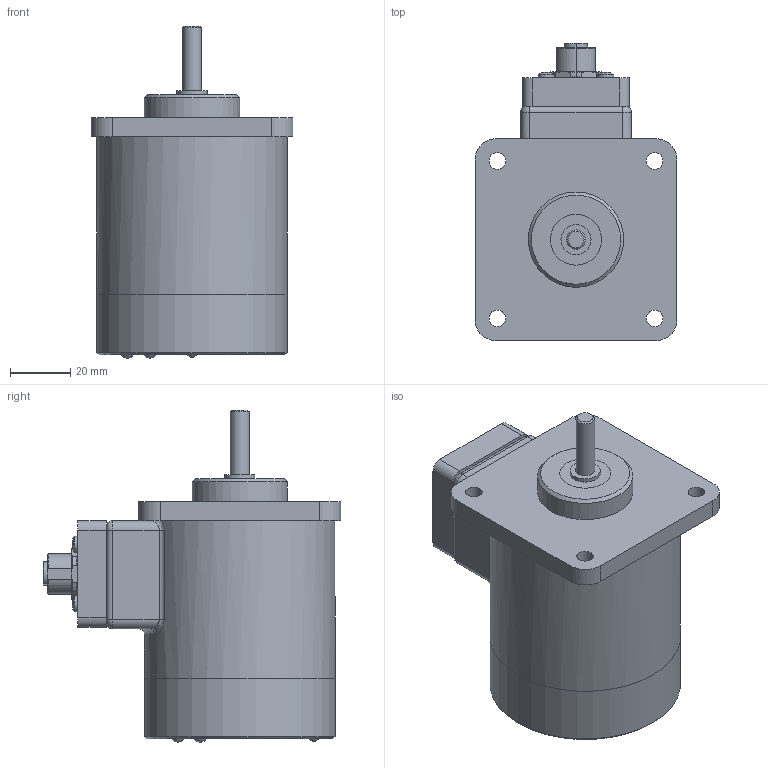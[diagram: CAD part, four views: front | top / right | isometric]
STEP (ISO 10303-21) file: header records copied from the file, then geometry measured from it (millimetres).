
FILE_DESCRIPTION(/* description */ ('Alibre Inc.'),/* implementation_level */ '2;1');
FILE_NAME(/* name */ 'export0',/* time_stamp */ '2010-05-25T09:12:26-04:00',/* author */ (''),/* organization */ (''),/* preprocessor_version */ 'ST-DEVELOPER v10',/* originating_system */ 'Alibre',/* authorisation */ '');
FILE_SCHEMA (('CONFIG_CONTROL_DESIGN'));
Length unit declared in the file: centimetre
Products named in the file (14): ID_1; ID_2; ID_3; ID_4; ID_5; ID_6; ID_7; ID_8; ID_9; ID_10; ID_11
Bounding box: 67.31 x 99.13 x 110.63 mm (x, y, z)
Volume: 295931.8 mm3; surface area: 54237.6 mm2
Topology: 15 solids, 15 shells, 336 faces, 745 edges, 481 vertices
Faces by surface type: plane 111, cylinder 105, bspline 72, cone 36, torus 8, sphere 4
Full cylindrical faces by diameter (mm): 2.87 x4, 2.92 x2, 3 x21, 3.96 x4, 5.44 x4, 5.537 x4, 6.35 x1, 10 x3, 11.5 x2, 17 x2, 24 x1, 26 x2, 31.75 x1, 58.72 x2, 63.5 x2
Entity records: 9326 total; most frequent: CARTESIAN_POINT 2364, DIRECTION 1107, ORIENTED_EDGE 1020, AXIS2_PLACEMENT_3D 514, EDGE_CURVE 510, EDGE_LOOP 379, FACE_BOUND 379, VERTEX_POINT 359
